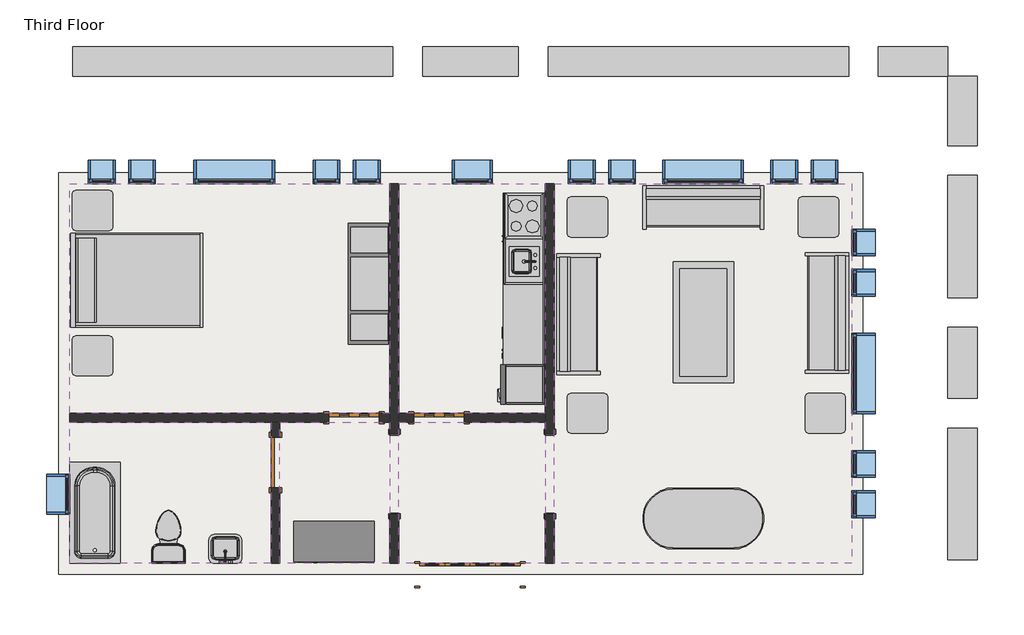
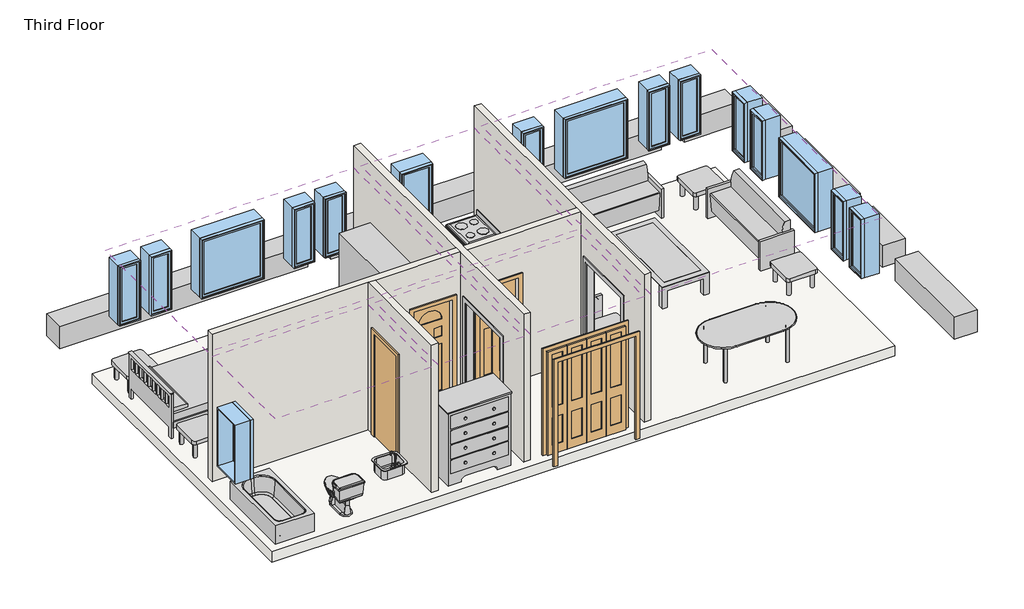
# One storey, incomplete: 17 windows, 15 furniture elements, 6 coverings, 6 proxies, 4 doors, 4 flow terminals, 4 walls, 2 beams, 1 slab.
"""IFC4 building model written with IfcOpenShell, lengths in millimetres."""

from ifc_helpers import new_model, si_unit, frame, origin, place, context, project, spatial, polyline, outline, extrude, faceted_brep, transform, mapped, element, save
from components import m_cook_top_4_unit2_0615_x_500mm_249f3515, m_dishwasher_610_x_610_x_875mm_54ecfc4c, m_kitchenette_medium_1372mm_e05c6bec, m_passage_opening_cased_1220_x_2134mm_87a8d9c2, m_refrigerator_600_x_660mm_a466bf94, m_bifold_4_panel_1525_x_2134mm_1ddae71f, m_single_decorative_2_0762_x_2134mm_0d0af7cb, m_single_decorative_2_0762_x_2134mm_2fe67c8e, m_single_flush_0762_x_2134mm_0d89e411, m_sink_kitchen_island_450_x_450mm_f969cf2d, m_sink_vanity_square_500_x_440mm_1e229b74, m_toilet_domestic_3d_m_toilet_domestic_3d_5cb52bd4, m_toilet_domestic_3d_m_toilet_domestic_3d_183bbd19, m_tub_rectangular_3d_m_tub_rectangular_3d_3a981ad5, m_bed_shaker_1422_x_1981mm_double_096e7f55, m_counter_top_w_sink_hole_600mm_depth_1fb56bb9, m_dresser_1220_x_1525_x_0610mm_18e1f140, m_entertainment_center_1830_x_1830_x_0610mm_f77a9b93, m_sofa_1830mm_58d08fc1, m_table_coffee_0915_x_1830_x_0457mm_134cd960, m_table_dining_oval_0915_x_1830mm_a7cfbe21, m_table_end_cb6ea12e, m_fixed_0406_x_1220mm_57fee329, m_fixed_0406_x_1220mm_85c28f40, m_fixed_0610_x_1220mm_2c28ef1d, m_fixed_1220_x_1220mm_e08ff7af

model = new_model("IFC4")

# Units and contexts
model_context = context("Model", 3, world=origin())
ifc_project = project(units=[si_unit("LENGTHUNIT", "METRE", prefix="MILLI")], contexts=[model_context])

# Site, building, storey
site = spatial("IfcSite", under=ifc_project)
building = spatial("IfcBuilding", under=site)
storey = spatial("IfcBuildingStorey", under=building, Name="Third Floor", Elevation=6096.0)

# Beams
placement = place(None, origin())
element("IfcBeam", 1, ObjectType="M_Concrete-Rectangular Beam : 450 x 450", at=placement, inside=storey, context=model_context, shape_type="SweptSolid", body=[
    extrude(outline(polyline([(-1643.3416203, 4481.1188386), (-1643.3416203, 4031.1188386), (-2693.3416203, 4031.1188386), (-2693.3416203, 4481.1188386), (-1643.3416203, 4481.1188386)])), frame((0.0, 0.0, 5646.0), z_axis=(0.0, 0.0, 1.0), x_axis=(1.0, 0.0, 0.0)), (0.0, 0.0, 1.0), 450.0),
    extrude(outline(polyline([(-14885.3416203, 4031.1188386), (-14885.3416203, 4481.1188386), (-10043.3416203, 4481.1188386), (-10043.3416203, 4031.1188386), (-14885.3416203, 4031.1188386)])), frame((0.0, 0.0, 5646.0), z_axis=(0.0, 0.0, 1.0), x_axis=(1.0, 0.0, 0.0)), (0.0, 0.0, 1.0), 450.0),
    extrude(outline(polyline([(-3143.3416203, 4481.1188386), (-3143.3416203, 4031.1188386), (-7693.3416203, 4031.1188386), (-7693.3416203, 4481.1188386), (-3143.3416203, 4481.1188386)])), frame((0.0, 0.0, 5646.0), z_axis=(0.0, 0.0, 1.0), x_axis=(1.0, 0.0, 0.0)), (0.0, 0.0, 1.0), 450.0),
    extrude(outline(polyline([(-8143.3416203, 4481.1188386), (-8143.3416203, 4031.1188386), (-9593.3416203, 4031.1188386), (-9593.3416203, 4481.1188386), (-8143.3416203, 4481.1188386)])), frame((0.0, 0.0, 5646.0), z_axis=(0.0, 0.0, 1.0), x_axis=(1.0, 0.0, 0.0)), (0.0, 0.0, 1.0), 450.0),
])
element("IfcBeam", 2, ObjectType="M_Concrete-Rectangular Beam : 450 x 450", at=placement, inside=storey, context=model_context, shape_type="SweptSolid", body=[
    extrude(outline(polyline([(-1643.3416203, 4031.1188386), (-1193.3416203, 4031.1188386), (-1193.3416203, 2981.1188386), (-1643.3416203, 2981.1188386), (-1643.3416203, 4031.1188386)])), frame((0.0, 0.0, 5646.0), z_axis=(0.0, 0.0, 1.0), x_axis=(1.0, 0.0, 0.0)), (0.0, 0.0, 1.0), 450.0),
    extrude(outline(polyline([(-1193.3416203, -3289.8811614), (-1643.3416203, -3289.8811614), (-1643.3416203, -1295.3811614), (-1193.3416203, -1295.3811614), (-1193.3416203, -3289.8811614)])), frame((0.0, 0.0, 5646.0), z_axis=(0.0, 0.0, 1.0), x_axis=(1.0, 0.0, 0.0)), (0.0, 0.0, 1.0), 450.0),
    extrude(outline(polyline([(-1643.3416203, 2531.1188386), (-1193.3416203, 2531.1188386), (-1193.3416203, 681.1188386), (-1643.3416203, 681.1188386), (-1643.3416203, 2531.1188386)])), frame((0.0, 0.0, 5646.0), z_axis=(0.0, 0.0, 1.0), x_axis=(1.0, 0.0, 0.0)), (0.0, 0.0, 1.0), 450.0),
    extrude(outline(polyline([(-1643.3416203, 231.1188386), (-1193.3416203, 231.1188386), (-1193.3416203, -845.3811614), (-1643.3416203, -845.3811614), (-1643.3416203, 231.1188386)])), frame((0.0, 0.0, 5646.0), z_axis=(0.0, 0.0, 1.0), x_axis=(1.0, 0.0, 0.0)), (0.0, 0.0, 1.0), 450.0),
])

# Proxies
m_cook_top_4_unit2_0615_x_500mm_shape = m_cook_top_4_unit2_0615_x_500mm_249f3515(model_context)
element("IfcBuildingElementProxy", 3, Name="M_Cook Top-4 Unit2 : 0615 x 500mm", ObjectType="M_Cook Top-4 Unit2 : 0615 x 500mm", at=placement, inside=storey, context=model_context, shape_type="MappedRepresentation", body=[
    mapped(m_cook_top_4_unit2_0615_x_500mm_shape, transform((-8054.9916203, 1914.054661, 6096.0), x_axis=(0.0, -1.0, 0.0), y_axis=(1.0, 0.0, 0.0), z_axis=(0.0, 0.0, 1.0))),
])
m_dishwasher_610_x_610_x_875mm_shape = m_dishwasher_610_x_610_x_875mm_54ecfc4c(model_context)
element("IfcBuildingElementProxy", 4, Name="M_Dishwasher : 610 x 610 x 875mm", ObjectType="M_Dishwasher : 610 x 610 x 875mm", at=placement, inside=storey, context=model_context, shape_type="MappedRepresentation", body=[
    mapped(m_dishwasher_610_x_610_x_875mm_shape, transform((-8321.6411851, 353.5721295, 6096.0), x_axis=(0.0, -1.0, 0.0), y_axis=(1.0, 0.0, 0.0), z_axis=(0.0, 0.0, 1.0))),
])
m_kitchenette_medium_1372mm_shape = m_kitchenette_medium_1372mm_e05c6bec(model_context)
element("IfcBuildingElementProxy", 5, Name="M_Kitchenette - Medium : 1372mm", ObjectType="M_Kitchenette - Medium : 1372mm", at=placement, inside=storey, context=model_context, shape_type="MappedRepresentation", body=[
    mapped(m_kitchenette_medium_1372mm_shape, transform((-7749.9916203, 1589.7923659, 6096.0), x_axis=(0.0, -1.0, 0.0), y_axis=(1.0, 0.0, 0.0), z_axis=(0.0, 0.0, 1.0))),
])
m_passage_opening_cased_1220_x_2134mm_shape = m_passage_opening_cased_1220_x_2134mm_87a8d9c2(model_context)
element("IfcBuildingElementProxy", 6, Name="M_Passage Opening-Cased : 1220 x 2134mm", ObjectType="M_Passage Opening-Cased : 1220 x 2134mm", at=placement, inside=storey, context=model_context, shape_type="MappedRepresentation", body=[
    mapped(m_passage_opening_cased_1220_x_2134mm_shape, transform((-7665.3416203, -1982.6925047, 6096.0), x_axis=(0.0, 1.0, 0.0), y_axis=(-1.0, 0.0, 0.0), z_axis=(0.0, 0.0, 1.0))),
])
element("IfcBuildingElementProxy", 7, Name="M_Passage Opening-Cased : 1220 x 2134mm", ObjectType="M_Passage Opening-Cased : 1220 x 2134mm", at=placement, inside=storey, context=model_context, shape_type="MappedRepresentation", body=[
    mapped(m_passage_opening_cased_1220_x_2134mm_shape, transform((-10019.0916203, -1999.0698181, 6096.0), x_axis=(0.0, -1.0, 0.0), y_axis=(1.0, 0.0, 0.0), z_axis=(0.0, 0.0, 1.0))),
])
m_refrigerator_600_x_660mm_shape = m_refrigerator_600_x_660mm_a466bf94(model_context)
element("IfcBuildingElementProxy", 8, Name="M_Refrigerator : 600 x 660mm", ObjectType="M_Refrigerator : 600 x 660mm", at=placement, inside=storey, context=model_context, shape_type="MappedRepresentation", body=[
    mapped(m_refrigerator_600_x_660mm_shape, transform((-8046.2067105, -687.7464817, 6096.0), x_axis=(0.0, -1.0, 0.0), y_axis=(1.0, 0.0, 0.0), z_axis=(0.0, 0.0, 1.0))),
])

# Coverings
element("IfcCovering", 9, ObjectType="Plain", at=placement, inside=storey, context=model_context, shape_type="SweptSolid", body=[
    extrude(outline(polyline([(-14935.3416203, 2406.1188386), (-10086.8416203, 2406.1188386), (-10086.8416203, -1070.3811614), (-14935.3416203, -1070.3811614), (-14935.3416203, 2406.1188386)])), frame((0.0, 0.0, 8686.0), z_axis=(0.0, 0.0, 1.0), x_axis=(1.0, 0.0, 0.0)), (0.0, 0.0, 1.0), 57.0),
])
element("IfcCovering", 10, ObjectType="Plain", at=placement, inside=storey, context=model_context, shape_type="SweptSolid", body=[
    extrude(outline(polyline([(-9951.3416203, -1070.3811614), (-9951.3416203, 2406.1188386), (-7733.0916203, 2406.1188386), (-7733.0916203, -1070.3811614), (-9951.3416203, -1070.3811614)])), frame((0.0, 0.0, 8686.0), z_axis=(0.0, 0.0, 1.0), x_axis=(1.0, 0.0, 0.0)), (0.0, 0.0, 1.0), 57.0),
])
element("IfcCovering", 11, ObjectType="Plain", at=placement, inside=storey, context=model_context, shape_type="SweptSolid", body=[
    extrude(outline(polyline([(-7597.5916203, -3339.8811614), (-7597.5916203, 2406.1188386), (-3093.3416203, 2406.1188386), (-3093.3416203, -3339.8811614), (-7597.5916203, -3339.8811614)])), frame((0.0, 0.0, 8686.0), z_axis=(0.0, 0.0, 1.0), x_axis=(1.0, 0.0, 0.0)), (0.0, 0.0, 1.0), 57.0),
])
element("IfcCovering", 12, ObjectType="Plain", at=placement, inside=storey, context=model_context, shape_type="SweptSolid", body=[
    extrude(outline(polyline([(-7733.0916203, -3339.8811614), (-9951.3416203, -3339.8811614), (-9951.3416203, -1205.8811614), (-7733.0916203, -1205.8811614), (-7733.0916203, -3339.8811614)])), frame((0.0, 0.0, 8686.0), z_axis=(0.0, 0.0, 1.0), x_axis=(1.0, 0.0, 0.0)), (0.0, 0.0, 1.0), 57.0),
])
element("IfcCovering", 13, ObjectType="Plain", at=placement, inside=storey, context=model_context, shape_type="SweptSolid", body=[
    extrude(outline(polyline([(-11887.3416203, -1205.8811614), (-11887.3416203, -3339.8811614), (-14935.3416203, -3339.8811614), (-14935.3416203, -1205.8811614), (-11887.3416203, -1205.8811614)])), frame((0.0, 0.0, 8686.0), z_axis=(0.0, 0.0, 1.0), x_axis=(1.0, 0.0, 0.0)), (0.0, 0.0, 1.0), 57.0),
])
element("IfcCovering", 14, ObjectType="Plain", at=placement, inside=storey, context=model_context, shape_type="SweptSolid", body=[
    extrude(outline(polyline([(-10086.8416203, -3339.8811614), (-11751.8416203, -3339.8811614), (-11751.8416203, -1205.8811614), (-10086.8416203, -1205.8811614), (-10086.8416203, -3339.8811614)])), frame((0.0, 0.0, 8686.0), z_axis=(0.0, 0.0, 1.0), x_axis=(1.0, 0.0, 0.0)), (0.0, 0.0, 1.0), 57.0),
])

# Doors
m_bifold_4_panel_1525_x_2134mm_shape = m_bifold_4_panel_1525_x_2134mm_1ddae71f(model_context)
element("IfcDoor", 15, ObjectType="M_Bifold-4 Panel : 1525 x 2134mm", at=placement, inside=storey, context=model_context, shape_type="MappedRepresentation", body=[
    mapped(m_bifold_4_panel_1525_x_2134mm_shape, transform((-8876.0916203, -3514.8811614, 6096.0), x_axis=(1.0, 0.0, 0.0), y_axis=(0.0, 1.0, 0.0), z_axis=(0.0, 0.0, 1.0))),
])
m_single_decorative_2_0762_x_2134mm_shape = m_single_decorative_2_0762_x_2134mm_0d0af7cb(model_context)
element("IfcDoor", 16, ObjectType="M_Single-Decorative 2 : 0762 x 2134mm", at=placement, inside=storey, context=model_context, shape_type="MappedRepresentation", body=[
    mapped(m_single_decorative_2_0762_x_2134mm_shape, transform((-9342.3416203, -1138.1311614, 6096.0), x_axis=(-1.0, 0.0, 0.0), y_axis=(0.0, -1.0, 0.0), z_axis=(0.0, 0.0, 1.0))),
])
m_single_decorative_2_0762_x_2134mm_2_shape = m_single_decorative_2_0762_x_2134mm_2fe67c8e(model_context)
element("IfcDoor", 17, ObjectType="M_Single-Decorative 2 : 0762 x 2134mm", at=placement, inside=storey, context=model_context, shape_type="MappedRepresentation", body=[
    mapped(m_single_decorative_2_0762_x_2134mm_2_shape, transform((-10629.0916203, -1138.1311614, 6096.0), x_axis=(1.0, 0.0, 0.0), y_axis=(0.0, 1.0, 0.0), z_axis=(0.0, 0.0, 1.0))),
])
m_single_flush_0762_x_2134mm_shape = m_single_flush_0762_x_2134mm_0d89e411(model_context)
element("IfcDoor", 18, ObjectType="M_Single-Flush : 0762 x 2134mm", at=placement, inside=storey, context=model_context, shape_type="MappedRepresentation", body=[
    mapped(m_single_flush_0762_x_2134mm_shape, transform((-11819.5916203, -1815.8811614, 6096.0), x_axis=(0.0, 1.0, 0.0), y_axis=(-1.0, 0.0, 0.0), z_axis=(0.0, 0.0, 1.0))),
])

# Flow terminals
m_sink_kitchen_island_450_x_450mm_shape = m_sink_kitchen_island_450_x_450mm_f969cf2d(model_context)
element("IfcFlowTerminal", 19, ObjectType="M_Sink Kitchen-Island : 450 x 450mm", at=placement, inside=storey, context=model_context, shape_type="MappedRepresentation", body=[
    mapped(m_sink_kitchen_island_450_x_450mm_shape, transform((-8057.3370214, 1243.7439015, 6096.0), x_axis=(0.0, -1.0, 0.0), y_axis=(1.0, 0.0, 0.0), z_axis=(0.0, 0.0, 1.0))),
])
m_sink_vanity_square_500_x_440mm_shape = m_sink_vanity_square_500_x_440mm_1e229b74(model_context)
element("IfcFlowTerminal", 20, ObjectType="M_Sink Vanity-Square : 500 x 440mm", at=placement, inside=storey, context=model_context, shape_type="MappedRepresentation", body=[
    mapped(m_sink_vanity_square_500_x_440mm_shape, transform((-12563.5523798, -3158.1107603, 6096.0), x_axis=(-1.0, 0.0, 0.0), y_axis=(0.0, -1.0, 0.0), z_axis=(0.0, 0.0, 1.0))),
])
m_toilet_domestic_3d_m_toilet_domestic_3d_shape = m_toilet_domestic_3d_m_toilet_domestic_3d_5cb52bd4(model_context)
m_toilet_domestic_3d_m_toilet_domestic_3d_2_shape = m_toilet_domestic_3d_m_toilet_domestic_3d_183bbd19(model_context)
element("IfcFlowTerminal", 21, ObjectType="M_Toilet-Domestic-3D : M_Toilet-Domestic-3D", at=placement, inside=storey, context=model_context, shape_type="MappedRepresentation", body=[
    mapped(m_toilet_domestic_3d_m_toilet_domestic_3d_shape, transform((-13440.7376477, -2845.185134, 6096.0), x_axis=(-1.0000000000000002, 0.0, 0.0), y_axis=(0.0, -1.0000000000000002, 0.0), z_axis=(0.0, 0.0, 1.0))),
    mapped(m_toilet_domestic_3d_m_toilet_domestic_3d_2_shape, transform((-13440.7376477, -2845.185134, 6096.0), x_axis=(-1.0000000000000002, 0.0, 0.0), y_axis=(0.0, -1.0000000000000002, 0.0), z_axis=(0.0, 0.0, 1.0))),
])
m_tub_rectangular_3d_m_tub_rectangular_3d_shape = m_tub_rectangular_3d_m_tub_rectangular_3d_3a981ad5(model_context)
element("IfcFlowTerminal", 22, ObjectType="M_Tub-Rectangular-3D : M_Tub-Rectangular-3D", at=placement, inside=storey, context=model_context, shape_type="MappedRepresentation", body=[
    mapped(m_tub_rectangular_3d_m_tub_rectangular_3d_shape, transform((-15110.3416203, -2229.2781927, 6096.0), x_axis=(0.0, 1.0, 0.0), y_axis=(-1.0, 0.0, 0.0), z_axis=(0.0, 0.0, 1.0))),
])

# Furniture
m_bed_shaker_1422_x_1981mm_double_shape = m_bed_shaker_1422_x_1981mm_double_096e7f55(model_context)
element("IfcFurniture", 23, ObjectType="M_Bed-Shaker : 1422 x 1981mm - Double", at=placement, inside=storey, context=model_context, shape_type="MappedRepresentation", body=[
    mapped(m_bed_shaker_1422_x_1981mm_double_shape, transform((-14905.3416203, 963.9688386, 6096.0), x_axis=(0.0, 1.0000000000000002, 0.0), y_axis=(-1.0000000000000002, 0.0, 0.0), z_axis=(0.0, 0.0, 1.0))),
])
m_counter_top_w_sink_hole_600mm_depth_shape = m_counter_top_w_sink_hole_600mm_depth_1fb56bb9(model_context)
element("IfcFurniture", 24, ObjectType="M_Counter Top w Sink Hole : 600mm Depth", at=placement, inside=storey, context=model_context, shape_type="MappedRepresentation", body=[
    mapped(m_counter_top_w_sink_hole_600mm_depth_shape, transform((-7749.9916203, 1056.5923659, 6096.0), x_axis=(0.0, -1.0, 0.0), y_axis=(1.0, 0.0, 0.0), z_axis=(0.0, 0.0, 1.0))),
])
m_dresser_1220_x_1525_x_0610mm_shape = m_dresser_1220_x_1525_x_0610mm_18e1f140(model_context)
element("IfcFurniture", 25, ObjectType="M_Dresser : 1220 x 1525 x 0610mm", at=placement, inside=storey, context=model_context, shape_type="MappedRepresentation", body=[
    mapped(m_dresser_1220_x_1525_x_0610mm_shape, transform((-10667.6483605, -2647.7182073, 6096.0), x_axis=(1.0, 0.0, 0.0), y_axis=(0.0, 1.0, 0.0), z_axis=(0.0, 0.0, 1.0))),
])
m_entertainment_center_1830_x_1830_x_0610mm_shape = m_entertainment_center_1830_x_1830_x_0610mm_f77a9b93(model_context)
element("IfcFurniture", 26, ObjectType="M_Entertainment center : 1830 x 1830 x 0610mm", at=placement, inside=storey, context=model_context, shape_type="MappedRepresentation", body=[
    mapped(m_entertainment_center_1830_x_1830_x_0610mm_shape, transform((-10818.2416203, 891.1188386, 6096.0), x_axis=(0.0, 1.0, 0.0), y_axis=(-1.0, 0.0, 0.0), z_axis=(0.0, 0.0, 1.0))),
])
m_sofa_1830mm_shape = m_sofa_1830mm_58d08fc1(model_context)
element("IfcFurniture", 27, ObjectType="M_Sofa : 1830mm", at=placement, inside=storey, context=model_context, shape_type="MappedRepresentation", body=[
    mapped(m_sofa_1830mm_shape, transform((-5413.7121121, 1899.9647403, 6096.0), x_axis=(1.0, 0.0, 0.0), y_axis=(0.0, 1.0, 0.0), z_axis=(0.0, 0.0, 1.0))),
])
element("IfcFurniture", 28, ObjectType="M_Sofa : 1830mm", at=placement, inside=storey, context=model_context, shape_type="MappedRepresentation", body=[
    mapped(m_sofa_1830mm_shape, transform((-3617.1736471, 517.2688343, 6096.0), x_axis=(0.0, -1.0, 0.0), y_axis=(1.0, 0.0, 0.0), z_axis=(0.0, 0.0, 1.0))),
])
element("IfcFurniture", 29, ObjectType="M_Sofa : 1830mm", at=placement, inside=storey, context=model_context, shape_type="MappedRepresentation", body=[
    mapped(m_sofa_1830mm_shape, transform((-7088.437522, 355.7483468, 6096.0), x_axis=(0.0, 1.0, 0.0), y_axis=(-1.0, 0.0, 0.0), z_axis=(0.0, 0.0, 1.0))),
])
m_table_coffee_0915_x_1830_x_0457mm_shape = m_table_coffee_0915_x_1830_x_0457mm_134cd960(model_context)
element("IfcFurniture", 30, ObjectType="M_Table-Coffee : 0915 x 1830 x 0457mm", at=placement, inside=storey, context=model_context, shape_type="MappedRepresentation", body=[
    mapped(m_table_coffee_0915_x_1830_x_0457mm_shape, transform((-5248.1305425, 287.8530719, 6096.0), x_axis=(0.0, 1.0, 0.0), y_axis=(-1.0, 0.0, 0.0), z_axis=(0.0, 0.0, 1.0))),
])
m_table_dining_oval_0915_x_1830mm_shape = m_table_dining_oval_0915_x_1830mm_a7cfbe21(model_context)
element("IfcFurniture", 31, ObjectType="M_Table-Dining Oval : 0915 x 1830mm", at=placement, inside=storey, context=model_context, shape_type="MappedRepresentation", body=[
    mapped(m_table_dining_oval_0915_x_1830mm_shape, transform((-4941.5219482, -2305.2828007, 6096.0), x_axis=(1.0, 0.0, 0.0), y_axis=(0.0, 1.0, 0.0), z_axis=(0.0, 0.0, 1.0))),
])
m_table_end_shape = m_table_end_cb6ea12e(model_context)
element("IfcFurniture", 32, ObjectType="M_Table-End : 0610 x 0160mm altered height", at=placement, inside=storey, context=model_context, shape_type="MappedRepresentation", body=[
    mapped(m_table_end_shape, transform((-7407.0752506, 1748.7188386, 6096.0), x_axis=(1.0, 0.0, 0.0), y_axis=(0.0, 1.0, 0.0), z_axis=(0.0, 0.0, 1.0))),
])
element("IfcFurniture", 33, ObjectType="M_Table-End : 0610 x 0160mm altered height", at=placement, inside=storey, context=model_context, shape_type="MappedRepresentation", body=[
    mapped(m_table_end_shape, transform((-3907.0752506, 1748.7188386, 6096.0), x_axis=(1.0, 0.0, 0.0), y_axis=(0.0, 1.0, 0.0), z_axis=(0.0, 0.0, 1.0))),
])
element("IfcFurniture", 34, ObjectType="M_Table-End : 0610 x 0160mm altered height", at=placement, inside=storey, context=model_context, shape_type="MappedRepresentation", body=[
    mapped(m_table_end_shape, transform((-3807.0752506, -1222.7811614, 6096.0), x_axis=(1.0, 0.0, 0.0), y_axis=(0.0, 1.0, 0.0), z_axis=(0.0, 0.0, 1.0))),
])
element("IfcFurniture", 35, ObjectType="M_Table-End : 0610 x 0160mm altered height", at=placement, inside=storey, context=model_context, shape_type="MappedRepresentation", body=[
    mapped(m_table_end_shape, transform((-7407.0752506, -1222.7811614, 6096.0), x_axis=(1.0, 0.0, 0.0), y_axis=(0.0, 1.0, 0.0), z_axis=(0.0, 0.0, 1.0))),
])
element("IfcFurniture", 36, ObjectType="M_Table-End : 0610 x 0160mm altered height", at=placement, inside=storey, context=model_context, shape_type="MappedRepresentation", body=[
    mapped(m_table_end_shape, transform((-14899.0752506, -351.2811614, 6096.0), x_axis=(1.0, 0.0, 0.0), y_axis=(0.0, 1.0, 0.0), z_axis=(0.0, 0.0, 1.0))),
])
element("IfcFurniture", 37, ObjectType="M_Table-End : 0610 x 0160mm altered height", at=placement, inside=storey, context=model_context, shape_type="MappedRepresentation", body=[
    mapped(m_table_end_shape, transform((-14899.0752506, 1848.7188386, 6096.0), x_axis=(1.0, 0.0, 0.0), y_axis=(0.0, 1.0, 0.0), z_axis=(0.0, 0.0, 1.0))),
])

# Slab
element("IfcSlab", 38, ObjectType="160mm Concrete With 50mm Metal Deck", at=placement, inside=storey, context=model_context, shape_type="SweptSolid", body=[
    extrude(outline(polyline([(-2928.3416203, 2571.1188386), (-2928.3416203, -3504.8811614), (-15100.3416203, -3504.8811614), (-15100.3416203, 2571.1188386), (-2928.3416203, 2571.1188386)])), frame((0.0, 0.0, 5886.0), z_axis=(0.0, 0.0, 1.0), x_axis=(1.0, 0.0, 0.0)), (0.0, 0.0, 1.0), 210.0),
])

# Walls
element("IfcWall", 39, ObjectType="Interior - 135mm Partition (2-hr)", at=placement, inside=storey, context=model_context, shape_type="Brep", body=[
    faceted_brep([(-7733.0916203, 2406.1188386, 6096.0), (-7733.0916203, -1070.3811614, 6096.0), (-7733.0916203, -1205.8811614, 6096.0), (-7733.0916203, -1380.8811614, 6096.0), (-7733.0916203, -1380.8811614, 8230.0), (-7733.0916203, -2600.8811614, 8230.0), (-7733.0916203, -2600.8811614, 6096.0), (-7733.0916203, -3339.8811614, 6096.0), (-7733.0916203, -3339.8811614, 9144.0), (-7733.0916203, -1205.8811614, 9144.0), (-7733.0916203, -1070.3811614, 9144.0), (-7733.0916203, 2406.1188386, 9144.0), (-7597.5916203, -1380.8811614, 8230.0), (-7597.5916203, -1380.8811614, 6096.0), (-7597.5916203, 2406.1188386, 6096.0), (-7597.5916203, 2406.1188386, 9144.0), (-7597.5916203, -3339.8811614, 9144.0), (-7597.5916203, -3339.8811614, 6096.0), (-7597.5916203, -2600.8811614, 6096.0), (-7597.5916203, -2600.8811614, 8230.0)], [[[0, 1, 2, 3, 4, 5, 6, 7, 8, 9, 10, 11]], [[12, 13, 14, 15, 16, 17, 18, 19]], [[18, 17, 7, 6]], [[14, 13, 3, 2, 1, 0]], [[11, 10, 9, 8, 16, 15]], [[6, 5, 19, 18]], [[4, 3, 13, 12]], [[5, 4, 12, 19]], [[0, 11, 15, 14]], [[8, 7, 17, 16]]]),
])
element("IfcWall", 40, ObjectType="Interior - 135mm Partition (2-hr)", at=placement, inside=storey, context=model_context, shape_type="Brep", body=[
    faceted_brep([(-10086.8416203, -2600.8811614, 8230.0), (-10086.8416203, -2600.8811614, 6096.0), (-10086.8416203, -3339.8811614, 6096.0), (-10086.8416203, -3339.8811614, 9144.0), (-10086.8416203, -1205.8811614, 9144.0), (-10086.8416203, -1070.3811614, 9144.0), (-10086.8416203, 2406.1188386, 9144.0), (-10086.8416203, 2406.1188386, 6096.0), (-10086.8416203, -1070.3811614, 6096.0), (-10086.8416203, -1205.8811614, 6096.0), (-10086.8416203, -1380.8811614, 6096.0), (-10086.8416203, -1380.8811614, 8230.0), (-9951.3416203, -3339.8811614, 6096.0), (-9951.3416203, -2600.8811614, 6096.0), (-9951.3416203, -2600.8811614, 8230.0), (-9951.3416203, -1380.8811614, 8230.0), (-9951.3416203, -1380.8811614, 6096.0), (-9951.3416203, -1205.8811614, 6096.0), (-9951.3416203, -1070.3811614, 6096.0), (-9951.3416203, 2406.1188386, 6096.0), (-9951.3416203, 2406.1188386, 9144.0), (-9951.3416203, -1070.3811614, 9144.0), (-9951.3416203, -1205.8811614, 9144.0), (-9951.3416203, -3339.8811614, 9144.0)], [[[0, 1, 2, 3, 4, 5, 6, 7, 8, 9, 10, 11]], [[12, 13, 14, 15, 16, 17, 18, 19, 20, 21, 22, 23]], [[2, 1, 13, 12]], [[10, 9, 8, 7, 19, 18, 17, 16]], [[6, 5, 4, 3, 23, 22, 21, 20]], [[16, 15, 11, 10]], [[14, 13, 1, 0]], [[15, 14, 0, 11]], [[7, 6, 20, 19]], [[3, 2, 12, 23]]]),
])
element("IfcWall", 41, ObjectType="Interior - 135mm Partition (2-hr)", at=placement, inside=storey, context=model_context, shape_type="Brep", body=[
    faceted_brep([(-7733.0916203, -1205.8811614, 6096.0), (-7733.0916203, -1205.8811614, 9144.0), (-9951.3416203, -1205.8811614, 9144.0), (-9951.3416203, -1205.8811614, 6096.0), (-9723.3416203, -1205.8811614, 6096.0), (-9723.3416203, -1205.8811614, 8230.0), (-8961.3416203, -1205.8811614, 8230.0), (-8961.3416203, -1205.8811614, 6096.0), (-7733.0916203, -1070.3811614, 9144.0), (-7733.0916203, -1070.3811614, 6096.0), (-8961.3416203, -1070.3811614, 6096.0), (-8961.3416203, -1070.3811614, 8230.0), (-9723.3416203, -1070.3811614, 8230.0), (-9723.3416203, -1070.3811614, 6096.0), (-9951.3416203, -1070.3811614, 6096.0), (-9951.3416203, -1070.3811614, 9144.0)], [[[0, 1, 2, 3, 4, 5, 6, 7]], [[8, 9, 10, 11, 12, 13, 14, 15]], [[9, 0, 7, 10]], [[13, 4, 3, 14]], [[1, 8, 15, 2]], [[1, 0, 9, 8]], [[3, 2, 15, 14]], [[5, 4, 13, 12]], [[6, 5, 12, 11]], [[7, 6, 11, 10]]]),
    faceted_brep([(-10248.0916203, -1205.8811614, 8230.0), (-10248.0916203, -1205.8811614, 6096.0), (-10086.8416203, -1205.8811614, 6096.0), (-10086.8416203, -1205.8811614, 9144.0), (-11751.8416203, -1205.8811614, 9144.0), (-11887.3416203, -1205.8811614, 9144.0), (-14935.3416203, -1205.8811614, 9144.0), (-14935.3416203, -1205.8811614, 6096.0), (-11887.3416203, -1205.8811614, 6096.0), (-11751.8416203, -1205.8811614, 6096.0), (-11010.0916203, -1205.8811614, 6096.0), (-11010.0916203, -1205.8811614, 8230.0), (-10248.0916203, -1070.3811614, 6096.0), (-10248.0916203, -1070.3811614, 8230.0), (-11010.0916203, -1070.3811614, 8230.0), (-11010.0916203, -1070.3811614, 6096.0), (-14935.3416203, -1070.3811614, 6096.0), (-14935.3416203, -1070.3811614, 9144.0), (-10086.8416203, -1070.3811614, 9144.0), (-10086.8416203, -1070.3811614, 6096.0)], [[[0, 1, 2, 3, 4, 5, 6, 7, 8, 9, 10, 11]], [[12, 13, 14, 15, 16, 17, 18, 19]], [[1, 12, 19, 2]], [[15, 10, 9, 8, 7, 16]], [[17, 6, 5, 4, 3, 18]], [[3, 2, 19, 18]], [[13, 12, 1, 0]], [[14, 13, 0, 11]], [[15, 14, 11, 10]], [[7, 6, 17, 16]]]),
])
element("IfcWall", 42, ObjectType="Interior - 135mm Partition (2-hr)", at=placement, inside=storey, context=model_context, shape_type="SweptSolid", body=[
    extrude(outline(polyline([(-1205.8811614, 6096.0), (-1434.8811614, 6096.0), (-1434.8811614, 8230.0), (-2196.8811614, 8230.0), (-2196.8811614, 6096.0), (-3339.8811614, 6096.0), (-3339.8811614, 9144.0), (-1205.8811614, 9144.0), (-1205.8811614, 6096.0)])), frame((-11887.3416203, 0.0, 0.0), z_axis=(1.0, 0.0, 0.0), x_axis=(0.0, 1.0, 0.0)), (0.0, 0.0, 1.0), 135.5),
])

# Windows
m_fixed_0406_x_1220mm_shape = m_fixed_0406_x_1220mm_57fee329(model_context)
element("IfcWindow", 43, ObjectType="M_Fixed : 0406 x 1220mm", at=placement, inside=storey, context=model_context, shape_type="MappedRepresentation", body=[
    mapped(m_fixed_0406_x_1220mm_shape, transform((-14450.3416203, 2594.1188386, 6096.0), x_axis=(-1.0, 0.0, 0.0), y_axis=(0.0, -1.0, 0.0), z_axis=(0.0, 0.0, 1.0))),
])
element("IfcWindow", 44, ObjectType="M_Fixed : 0406 x 1220mm", at=placement, inside=storey, context=model_context, shape_type="MappedRepresentation", body=[
    mapped(m_fixed_0406_x_1220mm_shape, transform((-13840.3416203, 2594.1188386, 6096.0), x_axis=(-1.0, 0.0, 0.0), y_axis=(0.0, -1.0, 0.0), z_axis=(0.0, 0.0, 1.0))),
])
element("IfcWindow", 45, ObjectType="M_Fixed : 0406 x 1220mm", at=placement, inside=storey, context=model_context, shape_type="MappedRepresentation", body=[
    mapped(m_fixed_0406_x_1220mm_shape, transform((-7183.3416203, 2594.1188386, 6096.0), x_axis=(-1.0, 0.0, 0.0), y_axis=(0.0, -1.0, 0.0), z_axis=(0.0, 0.0, 1.0))),
])
element("IfcWindow", 46, ObjectType="M_Fixed : 0406 x 1220mm", at=placement, inside=storey, context=model_context, shape_type="MappedRepresentation", body=[
    mapped(m_fixed_0406_x_1220mm_shape, transform((-6573.3416203, 2594.1188386, 6096.0), x_axis=(-1.0, 0.0, 0.0), y_axis=(0.0, -1.0, 0.0), z_axis=(0.0, 0.0, 1.0))),
])
element("IfcWindow", 47, ObjectType="M_Fixed : 0406 x 1220mm", at=placement, inside=storey, context=model_context, shape_type="MappedRepresentation", body=[
    mapped(m_fixed_0406_x_1220mm_shape, transform((-2905.3416203, 1514.1188386, 6096.0), x_axis=(0.0, 1.0, 0.0), y_axis=(-1.0, 0.0, 0.0), z_axis=(0.0, 0.0, 1.0))),
])
element("IfcWindow", 48, ObjectType="M_Fixed : 0406 x 1220mm", at=placement, inside=storey, context=model_context, shape_type="MappedRepresentation", body=[
    mapped(m_fixed_0406_x_1220mm_shape, transform((-2905.3416203, 904.1188386, 6096.0), x_axis=(0.0, 1.0, 0.0), y_axis=(-1.0, 0.0, 0.0), z_axis=(0.0, 0.0, 1.0))),
])
m_fixed_0406_x_1220mm_2_shape = m_fixed_0406_x_1220mm_85c28f40(model_context)
element("IfcWindow", 49, ObjectType="M_Fixed : 0406 x 1220mm", at=placement, inside=storey, context=model_context, shape_type="MappedRepresentation", body=[
    mapped(m_fixed_0406_x_1220mm_2_shape, transform((-10436.3416203, 2594.1188386, 6096.0), x_axis=(1.0, 0.0, 0.0), y_axis=(0.0, 1.0, 0.0), z_axis=(0.0, 0.0, 1.0))),
])
element("IfcWindow", 50, ObjectType="M_Fixed : 0406 x 1220mm", at=placement, inside=storey, context=model_context, shape_type="MappedRepresentation", body=[
    mapped(m_fixed_0406_x_1220mm_2_shape, transform((-11046.3416203, 2594.1188386, 6096.0), x_axis=(1.0, 0.0, 0.0), y_axis=(0.0, 1.0, 0.0), z_axis=(0.0, 0.0, 1.0))),
])
element("IfcWindow", 51, ObjectType="M_Fixed : 0406 x 1220mm", at=placement, inside=storey, context=model_context, shape_type="MappedRepresentation", body=[
    mapped(m_fixed_0406_x_1220mm_2_shape, transform((-3507.5916203, 2594.1188386, 6096.0), x_axis=(1.0, 0.0, 0.0), y_axis=(0.0, 1.0, 0.0), z_axis=(0.0, 0.0, 1.0))),
])
element("IfcWindow", 52, ObjectType="M_Fixed : 0406 x 1220mm", at=placement, inside=storey, context=model_context, shape_type="MappedRepresentation", body=[
    mapped(m_fixed_0406_x_1220mm_2_shape, transform((-4117.5916203, 2594.1188386, 6096.0), x_axis=(1.0, 0.0, 0.0), y_axis=(0.0, 1.0, 0.0), z_axis=(0.0, 0.0, 1.0))),
])
element("IfcWindow", 53, ObjectType="M_Fixed : 0406 x 1220mm", at=placement, inside=storey, context=model_context, shape_type="MappedRepresentation", body=[
    mapped(m_fixed_0406_x_1220mm_2_shape, transform((-2905.3416203, -2447.8811614, 6096.0), x_axis=(0.0, -1.0, 0.0), y_axis=(1.0, 0.0, 0.0), z_axis=(0.0, 0.0, 1.0))),
])
element("IfcWindow", 54, ObjectType="M_Fixed : 0406 x 1220mm", at=placement, inside=storey, context=model_context, shape_type="MappedRepresentation", body=[
    mapped(m_fixed_0406_x_1220mm_2_shape, transform((-2905.3416203, -1837.8811614, 6096.0), x_axis=(0.0, -1.0, 0.0), y_axis=(1.0, 0.0, 0.0), z_axis=(0.0, 0.0, 1.0))),
])
m_fixed_0610_x_1220mm_shape = m_fixed_0610_x_1220mm_2c28ef1d(model_context)
element("IfcWindow", 55, ObjectType="M_Fixed : 0610 x 1220mm", at=placement, inside=storey, context=model_context, shape_type="MappedRepresentation", body=[
    mapped(m_fixed_0610_x_1220mm_shape, transform((-8842.1916203, 2594.1188386, 6096.0), x_axis=(-1.0, 0.0, 0.0), y_axis=(0.0, -1.0, 0.0), z_axis=(0.0, 0.0, 1.0))),
])
element("IfcWindow", 56, ObjectType="M_Fixed : 0610 x 1220mm", at=placement, inside=storey, context=model_context, shape_type="MappedRepresentation", body=[
    mapped(m_fixed_0610_x_1220mm_shape, transform((-15123.3416203, -2294.8811614, 6096.0), x_axis=(0.0, -1.0, 0.0), y_axis=(1.0, 0.0, 0.0), z_axis=(0.0, 0.0, 1.0))),
])
m_fixed_1220_x_1220mm_shape = m_fixed_1220_x_1220mm_e08ff7af(model_context)
element("IfcWindow", 57, ObjectType="M_Fixed : 1220 x 1220mm", at=placement, inside=storey, context=model_context, shape_type="MappedRepresentation", body=[
    mapped(m_fixed_1220_x_1220mm_shape, transform((-12443.3416203, 2594.1188386, 6096.0), x_axis=(-1.0, 0.0, 0.0), y_axis=(0.0, -1.0, 0.0), z_axis=(0.0, 0.0, 1.0))),
])
element("IfcWindow", 58, ObjectType="M_Fixed : 1220 x 1220mm", at=placement, inside=storey, context=model_context, shape_type="MappedRepresentation", body=[
    mapped(m_fixed_1220_x_1220mm_shape, transform((-5345.4666203, 2594.1188386, 6096.0), x_axis=(-1.0, 0.0, 0.0), y_axis=(0.0, -1.0, 0.0), z_axis=(0.0, 0.0, 1.0))),
])
element("IfcWindow", 59, ObjectType="M_Fixed : 1220 x 1220mm", at=placement, inside=storey, context=model_context, shape_type="MappedRepresentation", body=[
    mapped(m_fixed_1220_x_1220mm_shape, transform((-2905.3416203, -466.8811614, 6096.0), x_axis=(0.0, 1.0, 0.0), y_axis=(-1.0, 0.0, 0.0), z_axis=(0.0, 0.0, 1.0))),
])

save(model, "model.ifc")
